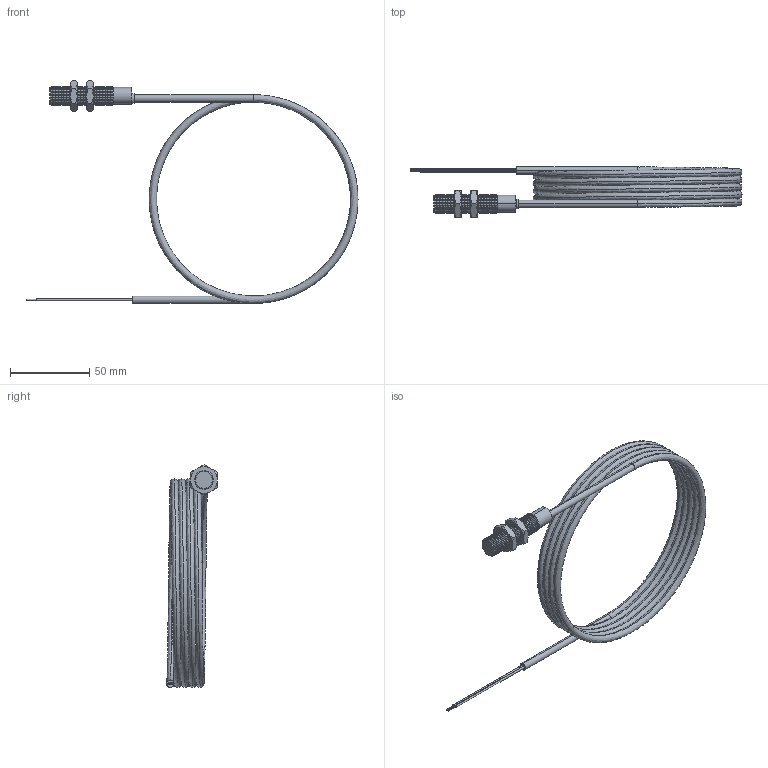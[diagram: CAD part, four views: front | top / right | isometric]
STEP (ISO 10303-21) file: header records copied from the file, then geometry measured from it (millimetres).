
FILE_DESCRIPTION (( 'STEP AP203' ), '1' );
FILE_NAME ('90-XXXX-006.STEP', '2015-10-28T13:08:56', ( 'Sam' ), ( 'Spade' ), 'SwSTEP 2.0', 'SolidWorks 2002296', '' );
FILE_SCHEMA (( 'CONFIG_CONTROL_DESIGN' ));
Length unit declared in the file: inch
Products named in the file (13): 90-XXXX-006; Imported53; Imported54; Imported52; Imported51; Imported48; Imported50; Imported49; Imported55; Imported59; Imported58; Imported57; Imported56
Assembly tree (12 placements, depth 2):
  90-XXXX-006
    Imported57
    Imported59
    Imported48
    Imported52
    Imported51
    Imported49
    Imported56
    Imported55
    Imported54
    Imported53
    Imported50
    Imported58
Bounding box: 209.36 x 32.04 x 140.61 mm (x, y, z)
Volume: 40760.3 mm3; surface area: 34415.2 mm2
Topology: 12 solids, 12 shells, 383 faces, 764 edges, 408 vertices
Faces by surface type: cone 228, cylinder 104, plane 39, bspline 12
Entity records: 12678 total; most frequent: CARTESIAN_POINT 3303, DIRECTION 1868, ORIENTED_EDGE 1528, AXIS2_PLACEMENT_3D 774, EDGE_CURVE 764, VERTEX_POINT 408, EDGE_LOOP 390, CIRCLE 388
